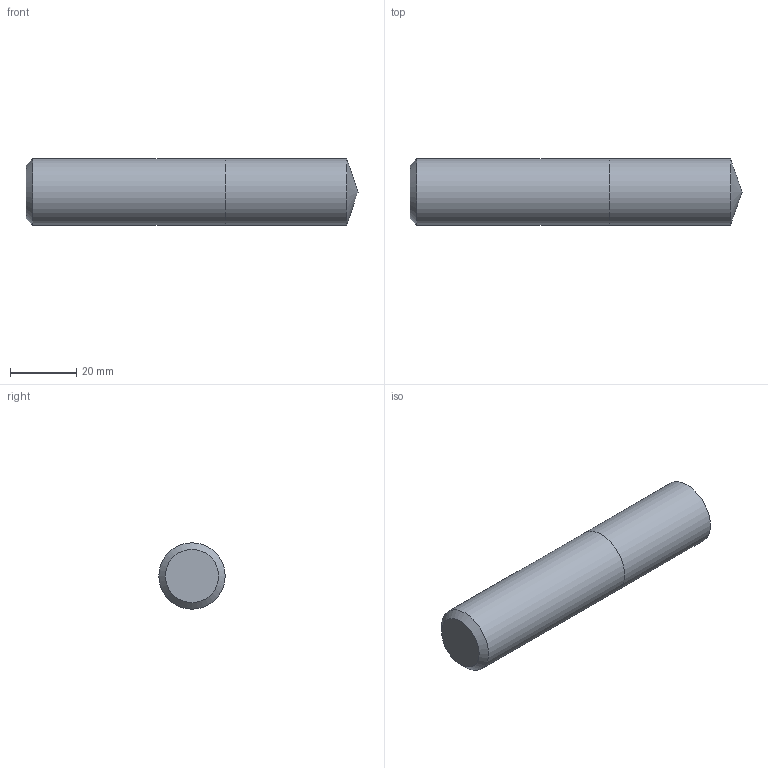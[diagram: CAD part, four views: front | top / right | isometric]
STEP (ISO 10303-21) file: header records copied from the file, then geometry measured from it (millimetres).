
FILE_DESCRIPTION (( 'STEP AP214' ), '1' );
FILE_NAME ('03-2231.STEP', '2022-02-07T07:06:34', ( 'USER' ), ( '' ), 'SwSTEP 2.0', 'SolidWorks 2018', '' );
FILE_SCHEMA (( 'AUTOMOTIVE_DESIGN' ));
Length unit declared in the file: millimetre
Products named in the file (1): 03-2231
Bounding box: 100 x 20 x 20 mm (x, y, z)
Volume: 30577.5 mm3; surface area: 7262.8 mm2
Topology: 2 solids, 2 shells, 7 faces, 11 edges, 7 vertices
Faces by surface type: plane 3, cylinder 2, cone 2
Full cylindrical faces by diameter (mm): 20 x2
Entity records: 189 total; most frequent: DIRECTION 26, CARTESIAN_POINT 18, AXIS2_PLACEMENT_3D 13, EDGE_LOOP 10, ORIENTED_EDGE 10, FACE_OUTER_BOUND 9, ADVANCED_FACE 7, UNCERTAINTY_MEASURE_WITH_UNIT 6
